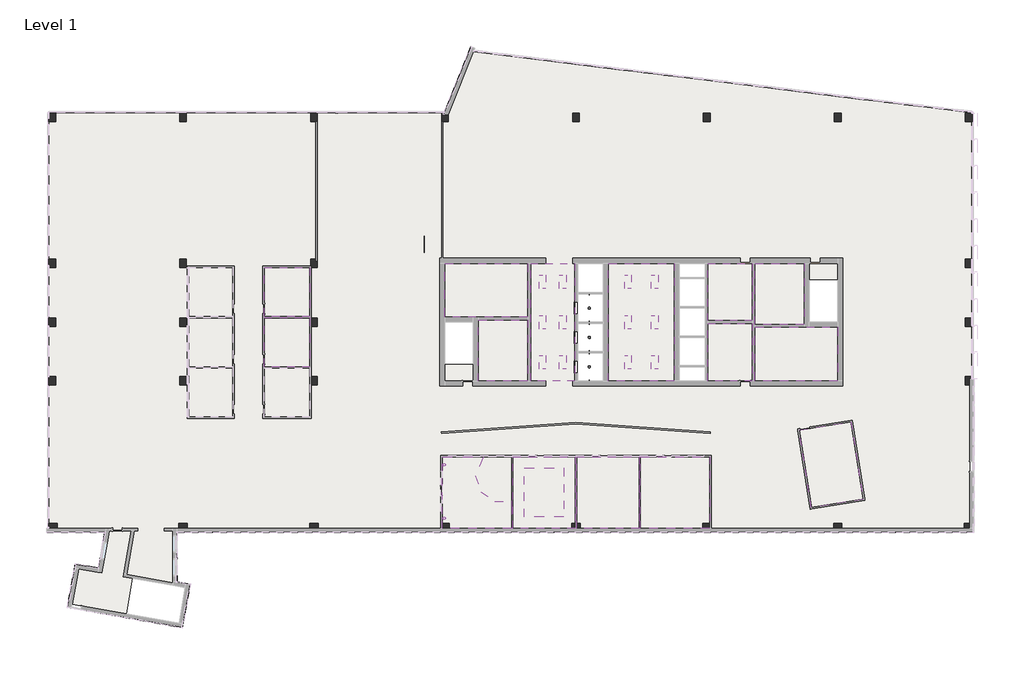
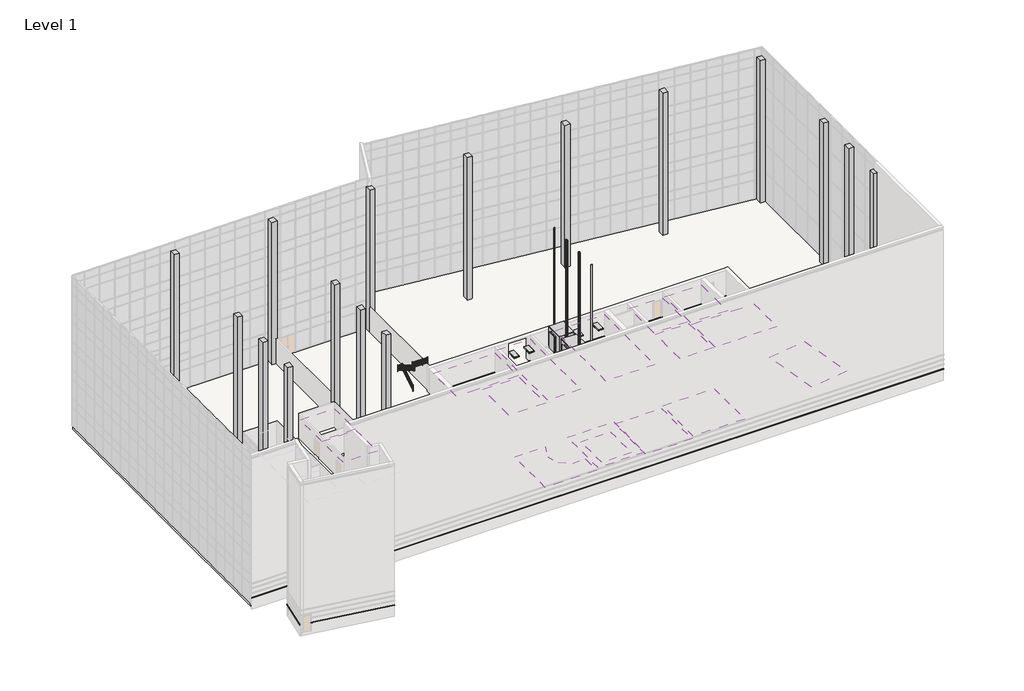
# One storey, part 23 of 23: 28 columns, 17 proxies, 16 coverings, 14 light fixtures, 1 railing, 1 slab.
"""IFC4 building model written with IfcOpenShell, lengths in millimetres."""

from ifc_helpers import new_model, si_unit, point, frame, frame_2d, origin, origin_with_axes, place, context, project, spatial, polyline, circle_curve, trimmed, segment, composite_curve, outline, extrude, faceted_brep, transform, mapped, element, save
from components import proxy_3500_lbs_8e23d717, proxy_7fed659c, concrete_rectangular_column_24_x_30_a0fa8d21, troffer_light_2x4_parabolic_2_x4_2_lamp_120v_ca384779, wall_lamp_bracket_100w_120v_72483117, handrail_pipe_2_8d0a3928

model = new_model("IFC4")

# Units and contexts
model_context = context("Model", 3, world=origin())
ifc_project = project(units=[si_unit("LENGTHUNIT", "METRE", prefix="MILLI")], contexts=[model_context])

# Site, building, storey
site = spatial("IfcSite", under=ifc_project)
building = spatial("IfcBuilding", under=site)
storey = spatial("IfcBuildingStorey", under=building, Name="Level 1", Elevation=0.0)

# Proxies
placement = place(None, origin())
element("IfcBuildingElementProxy", 1, Name="Wall Sweeps", at=placement, inside=storey, context=model_context, shape_type="Brep", body=[
    faceted_brep([(15090.9304088, -27990.1353492, 1085.85), (15183.0054088, -28082.2103492, 1085.85), (15217.9304088, -28117.1353492, 1041.4), (15217.9304088, -28117.1353492, 1016.0), (15090.9304088, -27990.1353492, 1016.0), (-57168.1625003, -27990.1353492, 1085.85), (-57168.1625003, -27990.1353492, 1016.0), (-57041.1625003, -28117.1353492, 1016.0), (-57041.1625003, -28117.1353492, 1041.4), (-57076.0875003, -28082.2103492, 1085.85), (-57076.0875003, -27990.1353492, 1085.85), (-57076.0875003, -27990.1353492, 1016.0)], [[[0, 1, 2, 3, 4]], [[5, 6, 7, 8, 9]], [[1, 0, 10, 5, 9]], [[2, 1, 9, 8]], [[3, 2, 8, 7]], [[4, 3, 7, 6, 11]], [[0, 4, 11, 6, 5, 10]]]),
])
element("IfcBuildingElementProxy", 2, Name="Wall Sweeps", at=placement, inside=storey, context=model_context, shape_type="Brep", body=[
    faceted_brep([(-63907.0723883, -30506.6915786, 1085.85), (-63907.0723883, -30506.6915786, 1016.0), (-63997.7485622, -30490.7029226, 1016.0), (-64032.142973, -30484.63826, 1016.0), (-64032.142973, -30484.63826, 1041.4), (-63997.7485622, -30490.7029226, 1085.85), (-64081.0179385, -31493.1858149, 1085.85), (-64155.7054564, -31386.5209851, 1085.85), (-64184.0352046, -31346.0619117, 1041.4), (-64184.0352046, -31346.0619117, 1016.0), (-64081.0179385, -31493.1858149, 1016.0)], [[[0, 1, 2, 3, 4, 5]], [[6, 7, 8, 9, 10]], [[0, 5, 7, 6]], [[5, 4, 8, 7]], [[4, 3, 9, 8]], [[3, 2, 1, 10, 9]], [[1, 0, 6, 10]]]),
    faceted_brep([(-63463.3356266, -27990.1353492, 1085.85), (-63463.3356266, -27990.1353492, 1016.0), (-63614.6883329, -28117.1353492, 1016.0), (-63614.6883329, -28117.1353492, 1041.4), (-63573.0663387, -28082.2103492, 1085.85), (-63642.4325656, -29005.844563, 1085.85), (-63733.1087394, -28989.855907, 1085.85), (-63767.5031502, -28983.7912444, 1041.4), (-63767.5031502, -28983.7912444, 1016.0), (-63733.1087394, -28989.855907, 1016.0), (-63642.4325656, -29005.844563, 1016.0)], [[[0, 1, 2, 3, 4]], [[5, 6, 7, 8, 9, 10]], [[0, 4, 6, 5]], [[4, 3, 7, 6]], [[3, 2, 8, 7]], [[2, 1, 10, 9, 8]], [[1, 0, 5, 10]]]),
])
element("IfcBuildingElementProxy", 3, Name="Wall Sweeps", at=placement, inside=storey, context=model_context, shape_type="Brep", body=[
    faceted_brep([(-64081.0179385, -31493.1858149, 1085.85), (-64081.0179385, -31493.1858149, 1016.0), (-64184.0352046, -31346.0619117, 1016.0), (-64184.0352046, -31346.0619117, 1041.4), (-64155.7054564, -31386.5209851, 1085.85), (-66182.2037603, -31122.690063, 1085.85), (-66256.8912782, -31016.0252332, 1085.85), (-66285.2210264, -30975.5661598, 1041.4), (-66285.2210264, -30975.5661598, 1016.0), (-66182.2037603, -31122.690063, 1016.0), (-64171.6941124, -31477.1971589, 1085.85), (-64171.6941124, -31477.1971589, 1016.0)], [[[0, 1, 2, 3, 4]], [[5, 6, 7, 8, 9]], [[0, 4, 6, 5, 10]], [[4, 3, 7, 6]], [[3, 2, 8, 7]], [[2, 1, 11, 9, 8]], [[1, 0, 10, 5, 9, 11]]]),
])
element("IfcBuildingElementProxy", 4, Name="Wall Sweeps", at=placement, inside=storey, context=model_context, shape_type="Brep", body=[
    faceted_brep([(-66182.2037603, -31122.690063, 1085.85), (-66182.2037603, -31122.690063, 1016.0), (-66285.2210264, -30975.5661598, 1016.0), (-66285.2210264, -30975.5661598, 1041.4), (-66256.8912782, -31016.0252332, 1085.85), (-66854.2786436, -34934.2161297, 1085.85), (-66944.9548174, -34918.2274737, 1085.85), (-66979.3492282, -34912.1628111, 1041.4), (-66979.3492282, -34912.1628111, 1016.0), (-66944.9548174, -34918.2274737, 1016.0), (-66854.2786436, -34934.2161297, 1016.0), (-66227.4130634, -31379.0847615, 1085.85), (-66227.4130634, -31379.0847615, 1016.0)], [[[0, 1, 2, 3, 4]], [[5, 6, 7, 8, 9, 10]], [[0, 4, 6, 5, 11]], [[4, 3, 7, 6]], [[3, 2, 8, 7]], [[2, 1, 12, 10, 9, 8]], [[1, 0, 11, 5, 10, 12]]]),
])
element("IfcBuildingElementProxy", 5, Name="Wall Sweeps", at=placement, inside=storey, context=model_context, shape_type="Brep", body=[
    faceted_brep([(-65768.936489, -35032.0958295, 1085.85), (-65768.936489, -35032.0958295, 1016.0), (-65784.925145, -35122.7720034, 1016.0), (-65790.9898076, -35157.1664142, 1016.0), (-65790.9898076, -35157.1664142, 1041.4), (-65784.925145, -35122.7720034, 1085.85), (-56654.4176339, -36639.2314199, 1085.85), (-56579.730116, -36745.8962497, 1085.85), (-56551.4003678, -36786.3553231, 1041.4), (-56551.4003678, -36786.3553231, 1016.0), (-56654.4176339, -36639.2314199, 1016.0)], [[[0, 1, 2, 3, 4, 5]], [[6, 7, 8, 9, 10]], [[0, 5, 7, 6]], [[5, 4, 8, 7]], [[4, 3, 9, 8]], [[3, 2, 1, 10, 9]], [[1, 0, 6, 10]]]),
])
element("IfcBuildingElementProxy", 6, Name="Wall Sweeps", at=placement, inside=storey, context=model_context, shape_type="Brep", body=[
    faceted_brep([(-56654.4176339, -36639.2314199, 1085.85), (-56654.4176339, -36639.2314199, 1016.0), (-56551.4003678, -36786.3553231, 1016.0), (-56551.4003678, -36786.3553231, 1041.4), (-56579.730116, -36745.8962497, 1085.85), (-55998.3314066, -32918.3815271, 1085.85), (-55891.6665768, -32843.6940092, 1085.85), (-55851.2075034, -32815.364261, 1041.4), (-55851.2075034, -32815.364261, 1016.0), (-55998.3314066, -32918.3815271, 1016.0), (-56609.2083309, -36382.8367214, 1085.85), (-56609.2083309, -36382.8367214, 1016.0)], [[[0, 1, 2, 3, 4]], [[5, 6, 7, 8, 9]], [[0, 4, 6, 5, 10]], [[4, 3, 7, 6]], [[3, 2, 8, 7]], [[2, 1, 11, 9, 8]], [[1, 0, 10, 5, 9, 11]]]),
])
element("IfcBuildingElementProxy", 7, Name="Wall Sweeps", at=placement, inside=storey, context=model_context, shape_type="Brep", body=[
    faceted_brep([(-55998.3314066, -32918.3815271, 1085.85), (-55998.3314066, -32918.3815271, 1016.0), (-55851.2075034, -32815.364261, 1016.0), (-55851.2075034, -32815.364261, 1041.4), (-55891.6665768, -32843.6940092, 1085.85), (-57168.1625003, -32712.1087424, 1085.85), (-57076.0875003, -32634.8486438, 1085.85), (-57041.1625003, -32605.5430892, 1041.4), (-57041.1625003, -32605.5430892, 1016.0), (-57168.1625003, -32712.1087424, 1016.0), (-56254.7261051, -32873.172224, 1085.85), (-56254.7261051, -32873.172224, 1016.0)], [[[0, 1, 2, 3, 4]], [[5, 6, 7, 8, 9]], [[0, 4, 6, 5, 10]], [[4, 3, 7, 6]], [[3, 2, 8, 7]], [[2, 1, 11, 9, 8]], [[1, 0, 10, 5, 9, 11]]]),
])
element("IfcBuildingElementProxy", 8, Name="Wall Sweeps", at=placement, inside=storey, context=model_context, shape_type="Brep", body=[
    faceted_brep([(-57168.1625003, -28391.7728492, 1085.85), (-57168.1625003, -28391.7728492, 1016.0), (-57076.0875003, -28391.7728492, 1016.0), (-57041.1625003, -28391.7728492, 1016.0), (-57041.1625003, -28391.7728492, 1041.4), (-57076.0875003, -28391.7728492, 1085.85), (-57168.1625003, -27990.1353492, 1085.85), (-57076.0875003, -28082.2103492, 1085.85), (-57041.1625003, -28117.1353492, 1041.4), (-57041.1625003, -28117.1353492, 1016.0), (-57168.1625003, -27990.1353492, 1016.0)], [[[0, 1, 2, 3, 4, 5]], [[6, 7, 8, 9, 10]], [[0, 5, 7, 6]], [[5, 4, 8, 7]], [[4, 3, 9, 8]], [[3, 2, 1, 10, 9]], [[1, 0, 6, 10]]]),
    faceted_brep([(-57168.1625003, -30525.3728492, 1085.85), (-57168.1625003, -30525.3728492, 1016.0), (-57076.0875003, -30525.3728492, 1016.0), (-57041.1625003, -30525.3728492, 1016.0), (-57041.1625003, -30525.3728492, 1041.4), (-57076.0875003, -30525.3728492, 1085.85), (-57168.1625003, -29915.7728492, 1085.85), (-57076.0875003, -29915.7728492, 1085.85), (-57041.1625003, -29915.7728492, 1041.4), (-57041.1625003, -29915.7728492, 1016.0), (-57076.0875003, -29915.7728492, 1016.0), (-57168.1625003, -29915.7728492, 1016.0)], [[[0, 1, 2, 3, 4, 5]], [[6, 7, 8, 9, 10, 11]], [[0, 5, 7, 6]], [[5, 4, 8, 7]], [[4, 3, 9, 8]], [[3, 2, 1, 11, 10, 9]], [[1, 0, 6, 11]]]),
    faceted_brep([(-57168.1625003, -32712.1087424, 1085.85), (-57168.1625003, -32712.1087424, 1016.0), (-57041.1625003, -32605.5430892, 1016.0), (-57041.1625003, -32605.5430892, 1041.4), (-57076.0875003, -32634.8486438, 1085.85), (-57168.1625003, -32049.3728492, 1085.85), (-57076.0875003, -32049.3728492, 1085.85), (-57041.1625003, -32049.3728492, 1041.4), (-57041.1625003, -32049.3728492, 1016.0), (-57076.0875003, -32049.3728492, 1016.0), (-57168.1625003, -32049.3728492, 1016.0), (-57168.1625003, -32618.6133371, 1085.85), (-57168.1625003, -32618.6133371, 1016.0)], [[[0, 1, 2, 3, 4]], [[5, 6, 7, 8, 9, 10]], [[0, 4, 6, 5, 11]], [[4, 3, 7, 6]], [[3, 2, 8, 7]], [[2, 1, 12, 10, 9, 8]], [[1, 0, 11, 5, 10, 12]]]),
])
element("IfcBuildingElementProxy", 9, Name="Wall Sweeps", at=placement, inside=storey, context=model_context, shape_type="Brep", body=[
    faceted_brep([(-63463.3356266, -27990.1353492, 1085.85), (-63573.0663387, -28082.2103492, 1085.85), (-63614.6883329, -28117.1353492, 1041.4), (-63614.6883329, -28117.1353492, 1016.0), (-63463.3356266, -27990.1353492, 1016.0), (-68878.5489105, -27990.1353492, 1085.85), (-68878.5489105, -27990.1353492, 1016.0), (-68878.5489105, -28082.2103492, 1016.0), (-68878.5489105, -28117.1353492, 1016.0), (-68878.5489105, -28117.1353492, 1041.4), (-68878.5489105, -28082.2103492, 1085.85), (-63556.8310319, -27990.1353492, 1085.85), (-63556.8310319, -27990.1353492, 1016.0)], [[[0, 1, 2, 3, 4]], [[5, 6, 7, 8, 9, 10]], [[1, 0, 11, 5, 10]], [[2, 1, 10, 9]], [[3, 2, 9, 8]], [[4, 3, 8, 7, 6, 12]], [[0, 4, 12, 6, 5, 11]]]),
])
element("IfcBuildingElementProxy", 10, Name="Wall Sweeps", at=placement, inside=storey, context=model_context, shape_type="Brep", body=[
    faceted_brep([(-32762.8098895, 9770.5727487, 1085.85), (-32848.1803429, 9805.0646508, 1085.85), (-32880.5622391, 9818.1477861, 1041.4), (-32880.5622391, 9818.1477861, 1016.0), (-32762.8098895, 9770.5727487, 1016.0), (-30279.0815275, 15918.016165, 1085.85), (-30279.0815275, 15918.016165, 1016.0), (-30364.4519809, 15952.5080671, 1016.0), (-30396.833877, 15965.5912024, 1016.0), (-30396.833877, 15965.5912024, 1041.4), (-30364.4519809, 15952.5080671, 1085.85), (-32748.8742565, 9805.0646508, 1085.85), (-32748.8742565, 9805.0646508, 1016.0)], [[[0, 1, 2, 3, 4]], [[5, 6, 7, 8, 9, 10]], [[1, 0, 11, 5, 10]], [[2, 1, 10, 9]], [[3, 2, 9, 8]], [[4, 3, 8, 7, 6, 12]], [[0, 4, 12, 6, 5, 11]]]),
])
element("IfcBuildingElementProxy", 11, Name="Wall Sweeps", at=placement, inside=storey, context=model_context, shape_type="Brep", body=[
    faceted_brep([(15090.9304088, -14142.3728492, 1085.85), (15183.0054088, -14142.3728492, 1085.85), (15217.9304088, -14142.3728492, 1041.4), (15217.9304088, -14142.3728492, 1016.0), (15183.0054088, -14142.3728492, 1016.0), (15090.9304088, -14142.3728492, 1016.0), (15090.9304088, -21686.0488327, 1085.85), (15090.9304088, -21686.0488327, 1016.0), (15183.0054088, -21686.0488327, 1016.0), (15217.9304088, -21686.0488327, 1016.0), (15217.9304088, -21686.0488327, 1041.4), (15183.0054088, -21686.0488327, 1085.85)], [[[0, 1, 2, 3, 4, 5]], [[6, 7, 8, 9, 10, 11]], [[1, 0, 6, 11]], [[2, 1, 11, 10]], [[3, 2, 10, 9]], [[5, 4, 3, 9, 8, 7]], [[0, 5, 7, 6]]]),
    faceted_brep([(15090.9304088, -22600.4488327, 1085.85), (15183.0054088, -22600.4488327, 1085.85), (15217.9304088, -22600.4488327, 1041.4), (15217.9304088, -22600.4488327, 1016.0), (15183.0054088, -22600.4488327, 1016.0), (15090.9304088, -22600.4488327, 1016.0), (15090.9304088, -27990.1353492, 1085.85), (15090.9304088, -27990.1353492, 1016.0), (15217.9304088, -28117.1353492, 1016.0), (15217.9304088, -28117.1353492, 1041.4), (15183.0054088, -28082.2103492, 1085.85), (15090.9304088, -27729.7853492, 1085.85), (15090.9304088, -27729.7853492, 1016.0)], [[[0, 1, 2, 3, 4, 5]], [[6, 7, 8, 9, 10]], [[1, 0, 11, 6, 10]], [[2, 1, 10, 9]], [[3, 2, 9, 8]], [[5, 4, 3, 8, 7, 12]], [[0, 5, 12, 7, 6, 11]]]),
])
proxy_3500_lbs_shape = proxy_3500_lbs_8e23d717(model_context)
element("IfcBuildingElementProxy", 12, Name="Elevator-Hydraulic[1] : 3500 lbs", ObjectType="Elevator-Hydraulic[1] : 3500 lbs", at=placement, inside=storey, context=model_context, shape_type="MappedRepresentation", body=[
    mapped(proxy_3500_lbs_shape, transform((-19661.1503332, -13088.7633527, 0.0), x_axis=(0.0, -1.0, 0.0), y_axis=(1.0, 0.0, 0.0), z_axis=(0.0, 0.0, 1.0))),
])
element("IfcBuildingElementProxy", 13, Name="Elevator-Hydraulic[1] : 3500 lbs", ObjectType="Elevator-Hydraulic[1] : 3500 lbs", at=placement, inside=storey, context=model_context, shape_type="MappedRepresentation", body=[
    mapped(proxy_3500_lbs_shape, transform((-19661.1503332, -10421.7633527, 0.0), x_axis=(0.0, -1.0, 0.0), y_axis=(1.0, 0.0, 0.0), z_axis=(0.0, 0.0, 1.0))),
])
element("IfcBuildingElementProxy", 14, Name="Elevator-Hydraulic[1] : 3500 lbs", ObjectType="Elevator-Hydraulic[1] : 3500 lbs", at=placement, inside=storey, context=model_context, shape_type="MappedRepresentation", body=[
    mapped(proxy_3500_lbs_shape, transform((-19661.1503332, -7754.7633527, 0.0), x_axis=(0.0, -1.0, 0.0), y_axis=(1.0, 0.0, 0.0), z_axis=(0.0, 0.0, 1.0))),
])
proxy_shape = proxy_7fed659c(model_context)
element("IfcBuildingElementProxy", 15, Name="Elevator%20Door-Center[1] : 42\" x 84\"", ObjectType="Elevator%20Door-Center[1] : 42\" x 84\"", at=placement, inside=storey, context=model_context, shape_type="MappedRepresentation", body=[
    mapped(proxy_shape, transform((-20852.1285069, -7663.0747049, 0.0), x_axis=(0.0, 1.0, 0.0), y_axis=(-1.0, 0.0, 0.0), z_axis=(0.0, 0.0, 1.0))),
])
element("IfcBuildingElementProxy", 16, Name="Elevator%20Door-Center[1] : 42\" x 84\"", ObjectType="Elevator%20Door-Center[1] : 42\" x 84\"", at=placement, inside=storey, context=model_context, shape_type="MappedRepresentation", body=[
    mapped(proxy_shape, transform((-20852.1285069, -10330.0747049, 0.0), x_axis=(0.0, 1.0, 0.0), y_axis=(-1.0, 0.0, 0.0), z_axis=(0.0, 0.0, 1.0))),
])
element("IfcBuildingElementProxy", 17, Name="Elevator%20Door-Center[1] : 42\" x 84\"", ObjectType="Elevator%20Door-Center[1] : 42\" x 84\"", at=placement, inside=storey, context=model_context, shape_type="MappedRepresentation", body=[
    mapped(proxy_shape, transform((-20852.1285069, -12997.0747049, 0.0), x_axis=(0.0, 1.0, 0.0), y_axis=(-1.0, 0.0, 0.0), z_axis=(0.0, 0.0, 1.0))),
])

# Columns
element("IfcColumn", 18, ObjectType="Concrete-Rectangular-Column : 24 x 30", at=placement, inside=storey, context=model_context, shape_type="SweptSolid", body=[
    extrude(outline(polyline([(15045.3286359, -13985.2103492), (15045.3286359, -14747.2103492), (14435.7286359, -14747.2103492), (14435.7286359, -13985.2103492), (15045.3286359, -13985.2103492)])), origin_with_axes(), (0.0, 0.0, 1.0), 18288.0),
])
element("IfcColumn", 19, ObjectType="Concrete-Rectangular-Column : 24 x 30", at=placement, inside=storey, context=model_context, shape_type="SweptSolid", body=[
    extrude(outline(polyline([(15045.3286359, -8651.2103492), (15045.3286359, -9413.2103492), (14435.7286359, -9413.2103492), (14435.7286359, -8651.2103492), (15045.3286359, -8651.2103492)])), origin_with_axes(), (0.0, 0.0, 1.0), 18288.0),
])
element("IfcColumn", 20, ObjectType="Concrete-Rectangular-Column : 24 x 30", at=placement, inside=storey, context=model_context, shape_type="SweptSolid", body=[
    extrude(outline(polyline([(15045.3286359, -3317.2103492), (15045.3286359, -4079.2103492), (14435.7286359, -4079.2103492), (14435.7286359, -3317.2103492), (15045.3286359, -3317.2103492)])), origin_with_axes(), (0.0, 0.0, 1.0), 18288.0),
])
element("IfcColumn", 21, ObjectType="Concrete-Rectangular-Column : 24 x 30", at=placement, inside=storey, context=model_context, shape_type="SweptSolid", body=[
    extrude(outline(polyline([(-68063.4713641, -13985.2103492), (-68063.4713641, -14747.2103492), (-68673.0713641, -14747.2103492), (-68673.0713641, -13985.2103492), (-68063.4713641, -13985.2103492)])), origin_with_axes(), (0.0, 0.0, 1.0), 18288.0),
])
element("IfcColumn", 22, ObjectType="Concrete-Rectangular-Column : 24 x 30", at=placement, inside=storey, context=model_context, shape_type="SweptSolid", body=[
    extrude(outline(polyline([(-68063.4713641, -8651.2103492), (-68063.4713641, -9413.2103492), (-68673.0713641, -9413.2103492), (-68673.0713641, -8651.2103492), (-68063.4713641, -8651.2103492)])), origin_with_axes(), (0.0, 0.0, 1.0), 18288.0),
])
element("IfcColumn", 23, ObjectType="Concrete-Rectangular-Column : 24 x 30", at=placement, inside=storey, context=model_context, shape_type="SweptSolid", body=[
    extrude(outline(polyline([(-68063.4713641, -3317.2103492), (-68063.4713641, -4079.2103492), (-68673.0713641, -4079.2103492), (-68673.0713641, -3317.2103492), (-68063.4713641, -3317.2103492)])), origin_with_axes(), (0.0, 0.0, 1.0), 18288.0),
])
element("IfcColumn", 24, ObjectType="Concrete-Rectangular-Column : 24 x 30", at=placement, inside=storey, context=model_context, shape_type="SweptSolid", body=[
    extrude(outline(polyline([(14435.7286359, 9154.1896508), (14435.7286359, 9916.1896508), (15045.3286359, 9916.1896508), (15045.3286359, 9154.1896508), (14435.7286359, 9154.1896508)])), origin_with_axes(), (0.0, 0.0, 1.0), 18288.0),
])
element("IfcColumn", 25, ObjectType="Concrete-Rectangular-Column : 24 x 30", at=placement, inside=storey, context=model_context, shape_type="SweptSolid", body=[
    extrude(outline(polyline([(-68673.0713641, 9154.1896508), (-68673.0713641, 9916.1896508), (-68063.4713641, 9916.1896508), (-68063.4713641, 9154.1896508), (-68673.0713641, 9154.1896508)])), origin_with_axes(), (0.0, 0.0, 1.0), 18288.0),
])
element("IfcColumn", 26, ObjectType="Concrete-Rectangular-Column : 24 x 30", at=placement, inside=storey, context=model_context, shape_type="SweptSolid", body=[
    extrude(outline(polyline([(2563.0429217, 9154.1896508), (2563.0429217, 9916.1896508), (3172.6429217, 9916.1896508), (3172.6429217, 9154.1896508), (2563.0429217, 9154.1896508)])), origin_with_axes(), (0.0, 0.0, 1.0), 18288.0),
])
element("IfcColumn", 27, ObjectType="Concrete-Rectangular-Column : 24 x 30", at=placement, inside=storey, context=model_context, shape_type="SweptSolid", body=[
    extrude(outline(polyline([(-9309.6427926, 9154.1896508), (-9309.6427926, 9916.1896508), (-8700.0427926, 9916.1896508), (-8700.0427926, 9154.1896508), (-9309.6427926, 9154.1896508)])), origin_with_axes(), (0.0, 0.0, 1.0), 18288.0),
])
element("IfcColumn", 28, ObjectType="Concrete-Rectangular-Column : 24 x 30", at=placement, inside=storey, context=model_context, shape_type="SweptSolid", body=[
    extrude(outline(polyline([(-21182.3285069, 9154.1896508), (-21182.3285069, 9916.1896508), (-20572.7285069, 9916.1896508), (-20572.7285069, 9154.1896508), (-21182.3285069, 9154.1896508)])), origin_with_axes(), (0.0, 0.0, 1.0), 18288.0),
])
element("IfcColumn", 29, ObjectType="Concrete-Rectangular-Column : 24 x 30", at=placement, inside=storey, context=model_context, shape_type="SweptSolid", body=[
    extrude(outline(polyline([(-33055.0142212, 9154.1896508), (-33055.0142212, 9916.1896508), (-32445.4142212, 9916.1896508), (-32445.4142212, 9154.1896508), (-33055.0142212, 9154.1896508)])), origin_with_axes(), (0.0, 0.0, 1.0), 18288.0),
])
element("IfcColumn", 30, ObjectType="Concrete-Rectangular-Column : 24 x 30", at=placement, inside=storey, context=model_context, shape_type="SweptSolid", body=[
    extrude(outline(polyline([(-44927.6999355, 9154.1896508), (-44927.6999355, 9916.1896508), (-44318.0999355, 9916.1896508), (-44318.0999355, 9154.1896508), (-44927.6999355, 9154.1896508)])), origin_with_axes(), (0.0, 0.0, 1.0), 18288.0),
])
element("IfcColumn", 31, ObjectType="Concrete-Rectangular-Column : 24 x 30", at=placement, inside=storey, context=model_context, shape_type="SweptSolid", body=[
    extrude(outline(polyline([(-56800.3856498, 9154.1896508), (-56800.3856498, 9916.1896508), (-56190.7856498, 9916.1896508), (-56190.7856498, 9154.1896508), (-56800.3856498, 9154.1896508)])), origin_with_axes(), (0.0, 0.0, 1.0), 18288.0),
])
element("IfcColumn", 32, ObjectType="Concrete-Rectangular-Column : 24 x 30", at=placement, inside=storey, context=model_context, shape_type="SweptSolid", body=[
    extrude(outline(polyline([(14359.5286359, -27294.8103492), (15121.5286359, -27294.8103492), (15121.5286359, -27904.4103492), (14359.5286359, -27904.4103492), (14359.5286359, -27294.8103492)])), origin_with_axes(), (0.0, 0.0, 1.0), 18288.0),
])
element("IfcColumn", 33, ObjectType="Concrete-Rectangular-Column : 24 x 30", at=placement, inside=storey, context=model_context, shape_type="SweptSolid", body=[
    extrude(outline(polyline([(-68660.7599961, -27294.8103492), (-67898.7599961, -27294.8103492), (-67898.7599961, -27904.4103492), (-68660.7599961, -27904.4103492), (-68660.7599961, -27294.8103492)])), origin_with_axes(), (0.0, 0.0, 1.0), 18288.0),
])
element("IfcColumn", 34, ObjectType="Concrete-Rectangular-Column : 24 x 30", at=placement, inside=storey, context=model_context, shape_type="SweptSolid", body=[
    extrude(outline(polyline([(2486.8429217, -27294.8103492), (3248.8429217, -27294.8103492), (3248.8429217, -27904.4103492), (2486.8429217, -27904.4103492), (2486.8429217, -27294.8103492)])), origin_with_axes(), (0.0, 0.0, 1.0), 18288.0),
])
element("IfcColumn", 35, ObjectType="Concrete-Rectangular-Column : 24 x 30", at=placement, inside=storey, context=model_context, shape_type="SweptSolid", body=[
    extrude(outline(polyline([(-9385.8427926, -27294.8103492), (-8623.8427926, -27294.8103492), (-8623.8427926, -27904.4103492), (-9385.8427926, -27904.4103492), (-9385.8427926, -27294.8103492)])), origin_with_axes(), (0.0, 0.0, 1.0), 18288.0),
])
element("IfcColumn", 36, ObjectType="Concrete-Rectangular-Column : 24 x 30", at=placement, inside=storey, context=model_context, shape_type="SweptSolid", body=[
    extrude(outline(polyline([(-21258.5285069, -27294.8103492), (-20496.5285069, -27294.8103492), (-20496.5285069, -27904.4103492), (-21258.5285069, -27904.4103492), (-21258.5285069, -27294.8103492)])), origin_with_axes(), (0.0, 0.0, 1.0), 18288.0),
])
element("IfcColumn", 37, ObjectType="Concrete-Rectangular-Column : 24 x 30", at=placement, inside=storey, context=model_context, shape_type="SweptSolid", body=[
    extrude(outline(polyline([(-33131.2142212, -27294.8103492), (-32369.2142212, -27294.8103492), (-32369.2142212, -27904.4103492), (-33131.2142212, -27904.4103492), (-33131.2142212, -27294.8103492)])), origin_with_axes(), (0.0, 0.0, 1.0), 18288.0),
])
element("IfcColumn", 38, ObjectType="Concrete-Rectangular-Column : 24 x 30", at=placement, inside=storey, context=model_context, shape_type="SweptSolid", body=[
    extrude(outline(polyline([(-45003.8999355, -27294.8103492), (-44241.8999355, -27294.8103492), (-44241.8999355, -27904.4103492), (-45003.8999355, -27904.4103492), (-45003.8999355, -27294.8103492)])), origin_with_axes(), (0.0, 0.0, 1.0), 18288.0),
])
element("IfcColumn", 39, ObjectType="Concrete-Rectangular-Column : 24 x 30", at=placement, inside=storey, context=model_context, shape_type="SweptSolid", body=[
    extrude(outline(polyline([(-56876.5856498, -27294.8103492), (-56114.5856498, -27294.8103492), (-56114.5856498, -27904.4103492), (-56876.5856498, -27904.4103492), (-56876.5856498, -27294.8103492)])), origin_with_axes(), (0.0, 0.0, 1.0), 18288.0),
])
concrete_rectangular_column_24_x_30_shape = concrete_rectangular_column_24_x_30_a0fa8d21(model_context)
element("IfcColumn", 40, ObjectType="Concrete-Rectangular-Column : 24 x 30", at=placement, inside=storey, context=model_context, shape_type="MappedRepresentation", body=[
    mapped(concrete_rectangular_column_24_x_30_shape, transform((-44622.8999355, -14366.2103492, 0.0), x_axis=(1.0, 0.0, 0.0), y_axis=(0.0, 1.0, 0.0), z_axis=(0.0, 0.0, 1.0))),
])
element("IfcColumn", 41, ObjectType="Concrete-Rectangular-Column : 24 x 30", at=placement, inside=storey, context=model_context, shape_type="MappedRepresentation", body=[
    mapped(concrete_rectangular_column_24_x_30_shape, transform((-56495.5856498, -14366.2103492, 0.0), x_axis=(1.0, 0.0, 0.0), y_axis=(0.0, 1.0, 0.0), z_axis=(0.0, 0.0, 1.0))),
])
element("IfcColumn", 42, ObjectType="Concrete-Rectangular-Column : 24 x 30", at=placement, inside=storey, context=model_context, shape_type="MappedRepresentation", body=[
    mapped(concrete_rectangular_column_24_x_30_shape, transform((-44622.8999355, -9032.2103492, 0.0), x_axis=(1.0, 0.0, 0.0), y_axis=(0.0, 1.0, 0.0), z_axis=(0.0, 0.0, 1.0))),
])
element("IfcColumn", 43, ObjectType="Concrete-Rectangular-Column : 24 x 30", at=placement, inside=storey, context=model_context, shape_type="MappedRepresentation", body=[
    mapped(concrete_rectangular_column_24_x_30_shape, transform((-56495.5856498, -9032.2103492, 0.0), x_axis=(1.0, 0.0, 0.0), y_axis=(0.0, 1.0, 0.0), z_axis=(0.0, 0.0, 1.0))),
])
element("IfcColumn", 44, ObjectType="Concrete-Rectangular-Column : 24 x 30", at=placement, inside=storey, context=model_context, shape_type="MappedRepresentation", body=[
    mapped(concrete_rectangular_column_24_x_30_shape, transform((-44622.8999355, -3698.2103492, 0.0), x_axis=(1.0, 0.0, 0.0), y_axis=(0.0, 1.0, 0.0), z_axis=(0.0, 0.0, 1.0))),
])
element("IfcColumn", 45, ObjectType="Concrete-Rectangular-Column : 24 x 30", at=placement, inside=storey, context=model_context, shape_type="MappedRepresentation", body=[
    mapped(concrete_rectangular_column_24_x_30_shape, transform((-56495.5856498, -3698.2103492, 0.0), x_axis=(1.0, 0.0, 0.0), y_axis=(0.0, 1.0, 0.0), z_axis=(0.0, 0.0, 1.0))),
])

# Coverings
element("IfcCovering", 46, ObjectType="2' x 2' ACT System", at=placement, inside=storey, context=model_context, shape_type="SweptSolid", body=[
    extrude(outline(polyline([(-49131.3999355, -4066.5103492), (-44991.1999355, -4066.5103492), (-44991.1999355, -8511.5103492), (-49131.3999355, -8511.5103492), (-49131.3999355, -4066.5103492)])), frame((0.0, 0.0, 2438.4), z_axis=(0.0, 0.0, 1.0), x_axis=(1.0, 0.0, 0.0)), (0.0, 0.0, 1.0), 57.15),
])
element("IfcCovering", 47, ObjectType="2' x 2' ACT System", at=placement, inside=storey, context=model_context, shape_type="SweptSolid", body=[
    extrude(outline(polyline([(-44991.1999355, -8638.5103492), (-44991.1999355, -13083.5103492), (-49131.3999355, -13083.5103492), (-49131.3999355, -8638.5103492), (-44991.1999355, -8638.5103492)])), frame((0.0, 0.0, 2438.4), z_axis=(0.0, 0.0, 1.0), x_axis=(1.0, 0.0, 0.0)), (0.0, 0.0, 1.0), 57.15),
])
element("IfcCovering", 48, ObjectType="2' x 4' ACT System", at=placement, inside=storey, context=model_context, shape_type="SweptSolid", body=[
    extrude(outline(polyline([(5175.4713993, -25116.831377), (484.1493191, -25859.8637991), (-629.14639, -18830.7913293), (4062.1756902, -18087.7589073), (5175.4713993, -25116.831377)])), frame((0.0, 0.0, 2438.4), z_axis=(0.0, 0.0, 1.0), x_axis=(1.0, 0.0, 0.0)), (0.0, 0.0, 1.0), 57.15),
])
element("IfcCovering", 49, ObjectType="2' x 4' ACT System", at=placement, inside=storey, context=model_context, shape_type="SweptSolid", body=[
    extrude(outline(polyline([(2867.8429217, -14366.2103492), (-4636.0427926, -14366.2103492), (-4636.0427926, -9489.4103492), (55.7000645, -9489.4103492), (2867.8429217, -9489.4103492), (2867.8429217, -14366.2103492)])), frame((0.0, 0.0, 2438.4), z_axis=(0.0, 0.0, 1.0), x_axis=(1.0, 0.0, 0.0)), (0.0, 0.0, 1.0), 57.15),
])
element("IfcCovering", 50, ObjectType="2' x 4' ACT System", at=placement, inside=storey, context=model_context, shape_type="SweptSolid", body=[
    extrude(outline(polyline([(-4636.0427926, -3698.2103492), (-172.8999355, -3698.2103492), (-172.8999355, -9235.4103492), (-4636.0427926, -9235.4103492), (-4636.0427926, -3698.2103492)])), frame((0.0, 0.0, 2438.4), z_axis=(0.0, 0.0, 1.0), x_axis=(1.0, 0.0, 0.0)), (0.0, 0.0, 1.0), 57.15),
])
element("IfcCovering", 51, ObjectType="2' x 4' ACT System", at=placement, inside=storey, context=model_context, shape_type="SweptSolid", body=[
    extrude(outline(polyline([(-8903.2427926, -3698.2103492), (-4890.0427926, -3698.2103492), (-4890.0427926, -8905.2103492), (-8903.2427926, -8905.2103492), (-8903.2427926, -3698.2103492)])), frame((0.0, 0.0, 2438.4), z_axis=(0.0, 0.0, 1.0), x_axis=(1.0, 0.0, 0.0)), (0.0, 0.0, 1.0), 57.15),
])
element("IfcCovering", 52, ObjectType="2' x 4' ACT System", at=placement, inside=storey, context=model_context, shape_type="SweptSolid", body=[
    extrude(outline(polyline([(-4890.0427926, -9159.2103492), (-4890.0427926, -14366.2103492), (-8903.2427926, -14366.2103492), (-8903.2427926, -9159.2103492), (-4890.0427926, -9159.2103492)])), frame((0.0, 0.0, 2438.4), z_axis=(0.0, 0.0, 1.0), x_axis=(1.0, 0.0, 0.0)), (0.0, 0.0, 1.0), 57.15),
])
element("IfcCovering", 53, ObjectType="2' x 4' ACT System", at=placement, inside=storey, context=model_context, shape_type="SweptSolid", body=[
    extrude(outline(polyline([(-15145.2927926, -21262.3103492), (-15145.2927926, -27729.7853492), (-20814.0285069, -27729.7853492), (-20814.0285069, -21262.3103492), (-15145.2927926, -21262.3103492)]), holes=[polyline([(-15754.8927926, -21871.9103492), (-20204.4285069, -21871.9103492), (-20204.4285069, -27120.1853492), (-15754.8927926, -27120.1853492), (-15754.8927926, -21871.9103492)])]), frame((0.0, 0.0, 2438.4), z_axis=(0.0, 0.0, 1.0), x_axis=(1.0, 0.0, 0.0)), (0.0, 0.0, 1.0), 57.15),
    extrude(outline(polyline([(-16364.4927926, -22481.5103492), (-16364.4927926, -26510.5853492), (-19594.8285069, -26510.5853492), (-19594.8285069, -22481.5103492), (-16364.4927926, -22481.5103492)])), frame((0.0, 0.0, 2438.4), z_axis=(0.0, 0.0, 1.0), x_axis=(1.0, 0.0, 0.0)), (0.0, 0.0, 1.0), 57.15),
])
element("IfcCovering", 54, ObjectType="2' x 4' ACT System", at=placement, inside=storey, context=model_context, shape_type="SweptSolid", body=[
    extrude(outline(polyline([(-24992.3285069, -14366.2103492), (-24992.3285069, -3698.2103492), (-20979.1285069, -3698.2103492), (-20979.1285069, -14366.2103492), (-24992.3285069, -14366.2103492)]), holes=[polyline([(-21766.5285069, -13299.4103492), (-21766.5285069, -12080.2103492), (-22376.1285069, -12080.2103492), (-22376.1285069, -13299.4103492), (-21766.5285069, -13299.4103492)]), polyline([(-23595.3285069, -13299.4103492), (-23595.3285069, -12080.2103492), (-24204.9285069, -12080.2103492), (-24204.9285069, -13299.4103492), (-23595.3285069, -13299.4103492)]), polyline([(-21766.5285069, -9641.8103492), (-21766.5285069, -8422.6103492), (-22376.1285069, -8422.6103492), (-22376.1285069, -9641.8103492), (-21766.5285069, -9641.8103492)]), polyline([(-23595.3285069, -9641.8103492), (-23595.3285069, -8422.6103492), (-24204.9285069, -8422.6103492), (-24204.9285069, -9641.8103492), (-23595.3285069, -9641.8103492)]), polyline([(-21766.5285069, -5984.2103492), (-21766.5285069, -4765.0103492), (-22376.1285069, -4765.0103492), (-22376.1285069, -5984.2103492), (-21766.5285069, -5984.2103492)]), polyline([(-23595.3285069, -5984.2103492), (-23595.3285069, -4765.0103492), (-24204.9285069, -4765.0103492), (-24204.9285069, -5984.2103492), (-23595.3285069, -5984.2103492)])]), frame((0.0, 0.0, 2743.2), z_axis=(0.0, 0.0, 1.0), x_axis=(1.0, 0.0, 0.0)), (0.0, 0.0, 1.0), 57.15),
])
element("IfcCovering", 55, ObjectType="2' x 4' ACT System", at=placement, inside=storey, context=model_context, shape_type="SweptSolid", body=[
    extrude(outline(polyline([(-11954.4428559, -14366.2103492), (-17927.9284437, -14366.2103492), (-17927.9284437, -3698.2103492), (-11954.4428559, -3698.2103492), (-11954.4428559, -14366.2103492)]), holes=[polyline([(-15855.5856498, -13299.4103492), (-15855.5856498, -12080.2103492), (-16465.1856498, -12080.2103492), (-16465.1856498, -13299.4103492), (-15855.5856498, -13299.4103492)]), polyline([(-15855.5856498, -9641.8103492), (-15855.5856498, -8422.6103492), (-16465.1856498, -8422.6103492), (-16465.1856498, -9641.8103492), (-15855.5856498, -9641.8103492)]), polyline([(-15855.5856498, -5984.2103492), (-15855.5856498, -4765.0103492), (-16465.1856498, -4765.0103492), (-16465.1856498, -5984.2103492), (-15855.5856498, -5984.2103492)]), polyline([(-13417.1856498, -13299.4103492), (-13417.1856498, -12080.2103492), (-14026.7856498, -12080.2103492), (-14026.7856498, -13299.4103492), (-13417.1856498, -13299.4103492)]), polyline([(-13417.1856498, -9641.8103492), (-13417.1856498, -8422.6103492), (-14026.7856498, -8422.6103492), (-14026.7856498, -9641.8103492), (-13417.1856498, -9641.8103492)]), polyline([(-13417.1856498, -5984.2103492), (-13417.1856498, -4765.0103492), (-14026.7856498, -4765.0103492), (-14026.7856498, -5984.2103492), (-13417.1856498, -5984.2103492)])]), frame((0.0, 0.0, 2743.2), z_axis=(0.0, 0.0, 1.0), x_axis=(1.0, 0.0, 0.0)), (0.0, 0.0, 1.0), 57.15),
])
element("IfcCovering", 56, ObjectType="2' x 4' ACT System", at=placement, inside=storey, context=model_context, shape_type="SweptSolid", body=[
    extrude(outline(polyline([(-8750.8427926, -21262.3103492), (-8750.8427926, -27729.7853492), (-15018.2927926, -27729.7853492), (-15018.2927926, -21262.3103492), (-8750.8427926, -21262.3103492)]), holes=[polyline([(-14065.7927926, -26713.7853492), (-9766.8427926, -26713.7853492), (-9766.8427926, -22214.8103492), (-14065.7927926, -22214.8103492), (-14065.7927926, -26713.7853492)])]), frame((0.0, 0.0, 2743.2), z_axis=(0.0, 0.0, 1.0), x_axis=(1.0, 0.0, 0.0)), (0.0, 0.0, 1.0), 57.15),
])
element("IfcCovering", 57, ObjectType="2' x 4' ACT System", at=placement, inside=storey, context=model_context, shape_type="SweptSolid", body=[
    extrude(outline(polyline([(-21957.0285069, -22278.3103492), (-21957.0285069, -26713.7853492), (-25571.9927926, -26713.7853492), (-25571.9927926, -22278.3103492), (-21957.0285069, -22278.3103492)])), frame((0.0, 0.0, 2438.4), z_axis=(0.0, 0.0, 1.0), x_axis=(1.0, 0.0, 0.0)), (0.0, 0.0, 1.0), 57.15),
])
element("IfcCovering", 58, ObjectType="GWB on Mtl. Stud", at=placement, inside=storey, context=model_context, shape_type="SweptSolid", body=[
    extrude(outline(polyline([(-25246.3285069, -8829.0103492), (-25246.3285069, -14366.2103492), (-29709.4713641, -14366.2103492), (-29709.4713641, -8829.0103492), (-25246.3285069, -8829.0103492)])), frame((0.0, 0.0, 2438.4), z_axis=(0.0, 0.0, 1.0), x_axis=(1.0, 0.0, 0.0)), (0.0, 0.0, 1.0), 107.95),
])
element("IfcCovering", 59, ObjectType="GWB on Mtl. Stud", at=placement, inside=storey, context=model_context, shape_type="SweptSolid", body=[
    extrude(outline(polyline([(-32750.2142212, -3698.2103492), (-25246.3285069, -3698.2103492), (-25246.3285069, -8575.0103492), (-29938.0713641, -8575.0103492), (-32750.2142212, -8575.0103492), (-32750.2142212, -3698.2103492)])), frame((0.0, 0.0, 2438.4), z_axis=(0.0, 0.0, 1.0), x_axis=(1.0, 0.0, 0.0)), (0.0, 0.0, 1.0), 107.95),
])
element("IfcCovering", 60, ObjectType="GWB on Mtl. Stud", at=placement, inside=storey, context=model_context, shape_type="SweptSolid", body=[
    extrude(outline(composite_curve([segment(polyline([(-33004.2142212, -27729.7853492), (-33004.2142212, -21262.3103492), (-29284.0698109, -21262.3103492)]), True, "CONTINUOUS"), segment(trimmed(circle_curve(frame_2d((-27542.3800226, -22968.8598625)), 2438.4), [point((-29284.0698109, -21262.3103492))], [point((-29980.7800226, -22968.8598625))], True, "CARTESIAN"), True, "CONTINUOUS"), segment(trimmed(circle_curve(frame_2d((-27542.3800226, -22968.8598625)), 2438.4), [point((-29980.7800226, -22968.8598625))], [point((-26714.9927926, -25262.595883))], True, "CARTESIAN"), True, "CONTINUOUS"), segment(polyline([(-26714.9927926, -25262.595883), (-26714.9927926, -27729.7853492), (-33004.2142212, -27729.7853492)]), True, "CONTINUOUS")], self_intersect=False), holes=[polyline([(-32127.0605055, -26756.6376676), (-30755.4605055, -26756.6376676), (-30755.4605055, -24927.8376676), (-32127.0605055, -24927.8376676), (-32127.0605055, -26756.6376676)])]), frame((0.0, 0.0, 2438.4), z_axis=(0.0, 0.0, 1.0), x_axis=(1.0, 0.0, 0.0)), (0.0, 0.0, 1.0), 107.95),
])
element("IfcCovering", 61, ObjectType="GWB on Mtl. Stud", at=placement, inside=storey, context=model_context, shape_type="SweptSolid", body=[
    extrude(outline(polyline([(-20941.0285069, -21262.3103492), (-20941.0285069, -27729.7853492), (-26587.9927926, -27729.7853492), (-26587.9927926, -21262.3103492), (-20941.0285069, -21262.3103492)])), frame((0.0, 0.0, 2743.2), z_axis=(0.0, 0.0, 1.0), x_axis=(1.0, 0.0, 0.0)), (0.0, 0.0, 1.0), 107.95),
])

# Light fixtures
troffer_light_2x4_parabolic_2_x4_2_lamp_120v_shape = troffer_light_2x4_parabolic_2_x4_2_lamp_120v_ca384779(model_context)
element("IfcLightFixture", 62, ObjectType="Troffer Light - 2x4 Parabolic : 2'x4'(2 Lamp) - 120V", at=placement, inside=storey, context=model_context, shape_type="MappedRepresentation", body=[
    mapped(troffer_light_2x4_parabolic_2_x4_2_lamp_120v_shape, transform((-16100.9197177, -12708.5138508, 304.8), x_axis=(0.0, -1.0, 0.0), y_axis=(1.0, 0.0, 0.0), z_axis=(0.0, 0.0, 1.0))),
])
element("IfcLightFixture", 63, ObjectType="Troffer Light - 2x4 Parabolic : 2'x4'(2 Lamp) - 120V", at=placement, inside=storey, context=model_context, shape_type="MappedRepresentation", body=[
    mapped(troffer_light_2x4_parabolic_2_x4_2_lamp_120v_shape, transform((-16100.9197177, -9050.9138508, 304.8), x_axis=(0.0, -1.0, 0.0), y_axis=(1.0, 0.0, 0.0), z_axis=(0.0, 0.0, 1.0))),
])
element("IfcLightFixture", 64, ObjectType="Troffer Light - 2x4 Parabolic : 2'x4'(2 Lamp) - 120V", at=placement, inside=storey, context=model_context, shape_type="MappedRepresentation", body=[
    mapped(troffer_light_2x4_parabolic_2_x4_2_lamp_120v_shape, transform((-16100.9197177, -5393.3138508, 304.8), x_axis=(0.0, -1.0, 0.0), y_axis=(1.0, 0.0, 0.0), z_axis=(0.0, 0.0, 1.0))),
])
element("IfcLightFixture", 65, ObjectType="Troffer Light - 2x4 Parabolic : 2'x4'(2 Lamp) - 120V", at=placement, inside=storey, context=model_context, shape_type="MappedRepresentation", body=[
    mapped(troffer_light_2x4_parabolic_2_x4_2_lamp_120v_shape, transform((-13662.5197177, -12708.5138508, 304.8), x_axis=(0.0, -1.0, 0.0), y_axis=(1.0, 0.0, 0.0), z_axis=(0.0, 0.0, 1.0))),
])
element("IfcLightFixture", 66, ObjectType="Troffer Light - 2x4 Parabolic : 2'x4'(2 Lamp) - 120V", at=placement, inside=storey, context=model_context, shape_type="MappedRepresentation", body=[
    mapped(troffer_light_2x4_parabolic_2_x4_2_lamp_120v_shape, transform((-13662.5197177, -9050.9138508, 304.8), x_axis=(0.0, -1.0, 0.0), y_axis=(1.0, 0.0, 0.0), z_axis=(0.0, 0.0, 1.0))),
])
element("IfcLightFixture", 67, ObjectType="Troffer Light - 2x4 Parabolic : 2'x4'(2 Lamp) - 120V", at=placement, inside=storey, context=model_context, shape_type="MappedRepresentation", body=[
    mapped(troffer_light_2x4_parabolic_2_x4_2_lamp_120v_shape, transform((-13662.5197177, -5393.3138508, 304.8), x_axis=(0.0, -1.0, 0.0), y_axis=(1.0, 0.0, 0.0), z_axis=(0.0, 0.0, 1.0))),
])
element("IfcLightFixture", 68, ObjectType="Troffer Light - 2x4 Parabolic : 2'x4'(2 Lamp) - 120V", at=placement, inside=storey, context=model_context, shape_type="MappedRepresentation", body=[
    mapped(troffer_light_2x4_parabolic_2_x4_2_lamp_120v_shape, transform((-22011.8625748, -12708.5138508, 304.8), x_axis=(0.0, -1.0, 0.0), y_axis=(1.0, 0.0, 0.0), z_axis=(0.0, 0.0, 1.0))),
])
element("IfcLightFixture", 69, ObjectType="Troffer Light - 2x4 Parabolic : 2'x4'(2 Lamp) - 120V", at=placement, inside=storey, context=model_context, shape_type="MappedRepresentation", body=[
    mapped(troffer_light_2x4_parabolic_2_x4_2_lamp_120v_shape, transform((-23840.6625748, -12708.5138508, 304.8), x_axis=(0.0, -1.0, 0.0), y_axis=(1.0, 0.0, 0.0), z_axis=(0.0, 0.0, 1.0))),
])
element("IfcLightFixture", 70, ObjectType="Troffer Light - 2x4 Parabolic : 2'x4'(2 Lamp) - 120V", at=placement, inside=storey, context=model_context, shape_type="MappedRepresentation", body=[
    mapped(troffer_light_2x4_parabolic_2_x4_2_lamp_120v_shape, transform((-22011.8625748, -9050.9138508, 304.8), x_axis=(0.0, -1.0, 0.0), y_axis=(1.0, 0.0, 0.0), z_axis=(0.0, 0.0, 1.0))),
])
element("IfcLightFixture", 71, ObjectType="Troffer Light - 2x4 Parabolic : 2'x4'(2 Lamp) - 120V", at=placement, inside=storey, context=model_context, shape_type="MappedRepresentation", body=[
    mapped(troffer_light_2x4_parabolic_2_x4_2_lamp_120v_shape, transform((-23840.6625748, -9050.9138508, 304.8), x_axis=(0.0, -1.0, 0.0), y_axis=(1.0, 0.0, 0.0), z_axis=(0.0, 0.0, 1.0))),
])
element("IfcLightFixture", 72, ObjectType="Troffer Light - 2x4 Parabolic : 2'x4'(2 Lamp) - 120V", at=placement, inside=storey, context=model_context, shape_type="MappedRepresentation", body=[
    mapped(troffer_light_2x4_parabolic_2_x4_2_lamp_120v_shape, transform((-22011.8625748, -5393.3138508, 304.8), x_axis=(0.0, -1.0, 0.0), y_axis=(1.0, 0.0, 0.0), z_axis=(0.0, 0.0, 1.0))),
])
element("IfcLightFixture", 73, ObjectType="Troffer Light - 2x4 Parabolic : 2'x4'(2 Lamp) - 120V", at=placement, inside=storey, context=model_context, shape_type="MappedRepresentation", body=[
    mapped(troffer_light_2x4_parabolic_2_x4_2_lamp_120v_shape, transform((-23840.6625748, -5393.3138508, 304.8), x_axis=(0.0, -1.0, 0.0), y_axis=(1.0, 0.0, 0.0), z_axis=(0.0, 0.0, 1.0))),
])
wall_lamp_bracket_100w_120v_shape = wall_lamp_bracket_100w_120v_72483117(model_context)
element("IfcLightFixture", 74, ObjectType="Wall Lamp - Bracket : 100W - 120V", at=placement, inside=storey, context=model_context, shape_type="MappedRepresentation", body=[
    mapped(wall_lamp_bracket_100w_120v_shape, transform((-33067.7142212, -26875.5535119, -254.0), x_axis=(0.0, -1.0, 0.0), y_axis=(1.0, 0.0, 0.0), z_axis=(0.0, 0.0, 1.0))),
])
element("IfcLightFixture", 75, ObjectType="Wall Lamp - Bracket : 100W - 120V", at=placement, inside=storey, context=model_context, shape_type="MappedRepresentation", body=[
    mapped(wall_lamp_bracket_100w_120v_shape, transform((-33067.7142212, -22024.1535119, -254.0), x_axis=(0.0, -1.0, 0.0), y_axis=(1.0, 0.0, 0.0), z_axis=(0.0, 0.0, 1.0))),
])

# Railing
handrail_pipe_2_shape = handrail_pipe_2_8d0a3928(model_context)
element("IfcRailing", 76, ObjectType="Handrail - Pipe 2", at=placement, inside=storey, context=model_context, shape_type="MappedRepresentation", body=[
    mapped(handrail_pipe_2_shape, transform((0.0, 0.0, 0.0), x_axis=(1.0, 0.0, 0.0), y_axis=(0.0, 1.0, 0.0), z_axis=(0.0, 0.0, 1.0))),
])

# Slab
element("IfcSlab", 77, ObjectType="Steel Bar Joist 14\" - Concrete", at=placement, inside=storey, context=model_context, shape_type="SweptSolid", body=[
    extrude(outline(polyline([(-68660.7599961, -27742.4853492), (-68660.7599961, 9954.2896508), (-32421.4843139, 9954.2896508), (-30175.817983, 15512.5088637), (15043.3054088, 9960.2986536), (15043.3054088, -15034.4255886), (14830.5804088, -15034.4255886), (14830.5804088, -27735.220667), (-57415.8125003, -27735.220667), (-57415.8125003, -32919.911766), (-61087.9334678, -32272.417763), (-61658.0117526, -35505.4923758), (-66551.3983764, -34642.656287), (-65981.3200915, -31409.5816742), (-63880.1342697, -31780.0774261), (-63168.1978494, -27742.4853492), (-68660.7599961, -27742.4853492)]), holes=[polyline([(-32750.2142212, -9032.2103492), (-32750.2142212, -12842.2103492), (-30166.6713641, -12842.2103492), (-30166.6713641, -9032.2103492), (-32750.2142212, -9032.2103492)]), polyline([(-20725.1285069, -3698.2103492), (-20725.1285069, -14366.2103492), (-18385.1284437, -14366.2103492), (-18385.1284437, -3698.2103492), (-20725.1285069, -3698.2103492)]), polyline([(-9157.2427926, -3698.2103492), (-11497.2428559, -3698.2103492), (-11497.2428559, -14366.2103492), (-9157.2427926, -14366.2103492), (-9157.2427926, -3698.2103492)]), polyline([(2867.8429217, -9032.2103492), (2867.8429217, -5222.2103492), (284.3000645, -5222.2103492), (284.3000645, -9032.2103492), (2867.8429217, -9032.2103492)])]), frame((0.0, 0.0, -434.975), z_axis=(0.0, 0.0, 1.0), x_axis=(1.0, 0.0, 0.0)), (0.0, 0.0, 1.0), 434.975),
])

save(model, "model.ifc")
